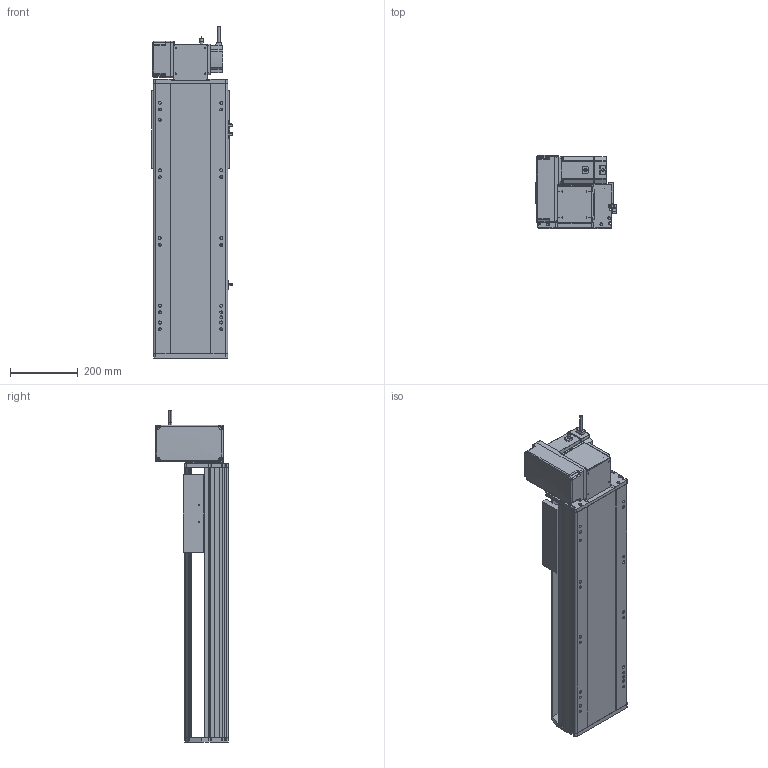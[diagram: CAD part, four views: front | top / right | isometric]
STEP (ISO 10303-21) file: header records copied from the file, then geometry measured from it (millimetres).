
FILE_DESCRIPTION (( 'STEP AP214' ), '1' );
FILE_NAME ('RTB22S-XX-450-LW-M75-C4.STEP', '2025-12-12T05:52:08', ( '' ), ( '' ), 'SwSTEP 2.0', 'SolidWorks 2018', '' );
FILE_SCHEMA (( 'AUTOMOTIVE_DESIGN' ));
Length unit declared in the file: millimetre
Products named in the file (14): RTB22S-L-011菁釱^RTB22S-XX-XX-LW-M75-C4; RTB22S-LW-々湍釱蚾饜^RTB22S-XX-XX-LW-M75-C4; RTB22S-GY-001耜裔^RTB22S-XX-XX-LW-M75-C4; RTH22-GY-013外置感应片^RTB22S-XX-XX-LW-M75-C4; RTB22S-XX-450-LW-M75-C4; RTB22S-L-004賑釱^RTB22S-XX-XX-LW-M75-C4; RTB22S-GY-014--々湍釱^RTB22S-LW-々湍釱蚾饜_RTB22S-XX-XX-LW-M75-C4; RTB22S-GY-007奻裔^RTB22S-XX-XX-LW-M75-C4; OMRON EE-SX672 传感器^RTB22S-XX-XX-LW-M75-C4; 750W萇儂^RTB22S-XX-XX-LW-M75-C4; RTB22S-GY-018P^RTB22S-LW-々湍釱蚾饜_RTB22S-XX-XX-LW-M75-C4; RTB22S-GY-017P^RTB22S-LW-々湍釱蚾饜_RTB22S-XX-XX-LW-M75-C4; RTB22S-GY-005P^RTB22S-LW-々湍釱蚾饜_RTB22S-XX-XX-LW-M75-C4; RTB22S-GY-008-M75--萇儂啣^RTB22S-LW-々湍釱蚾饜_RTB22S-XX-XX-LW-M75-C4
Assembly tree (16 placements, depth 3):
  RTB22S-XX-450-LW-M75-C4
    RTB22S-L-011菁釱^RTB22S-XX-XX-LW-M75-C4
    RTB22S-GY-001耜裔^RTB22S-XX-XX-LW-M75-C4
    750W萇儂^RTB22S-XX-XX-LW-M75-C4
    RTB22S-GY-007奻裔^RTB22S-XX-XX-LW-M75-C4
    RTB22S-L-004賑釱^RTB22S-XX-XX-LW-M75-C4
    RTH22-GY-013外置感应片^RTB22S-XX-XX-LW-M75-C4
    OMRON EE-SX672 传感器^RTB22S-XX-XX-LW-M75-C4  x3
    RTB22S-LW-々湍釱蚾饜^RTB22S-XX-XX-LW-M75-C4
      RTB22S-GY-014--々湍釱^RTB22S-LW-々湍釱蚾饜_RTB22S-XX-XX-LW-M75-C4
      RTB22S-GY-017P^RTB22S-LW-々湍釱蚾饜_RTB22S-XX-XX-LW-M75-C4  x2
      RTB22S-GY-005P^RTB22S-LW-々湍釱蚾饜_RTB22S-XX-XX-LW-M75-C4
      RTB22S-GY-008-M75--萇儂啣^RTB22S-LW-々湍釱蚾饜_RTB22S-XX-XX-LW-M75-C4
      RTB22S-GY-018P^RTB22S-LW-々湍釱蚾饜_RTB22S-XX-XX-LW-M75-C4
Bounding box: 238.5 x 215.5 x 982.2 mm (x, y, z)
Volume: 14877943.2 mm3; surface area: 1576727.2 mm2
Topology: 15 solids, 15 shells, 1929 faces, 5236 edges, 3362 vertices
Faces by surface type: plane 909, cylinder 586, bspline 296, cone 126, sphere 8, torus 4
Entity records: 50794 total; most frequent: CARTESIAN_POINT 14728, ORIENTED_EDGE 7284, DIRECTION 6956, EDGE_CURVE 3642, AXIS2_PLACEMENT_3D 2434, VERTEX_POINT 2366, LINE 2088, VECTOR 2088
